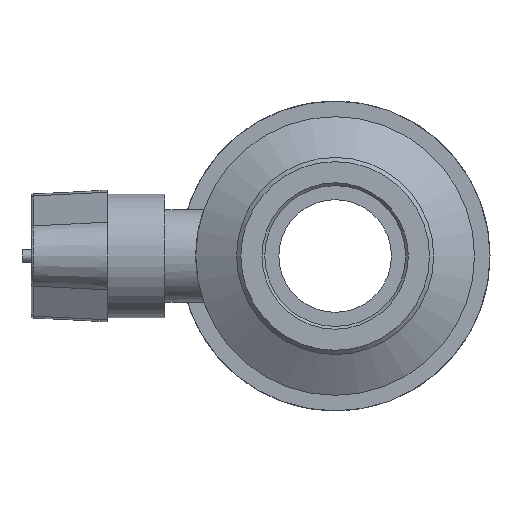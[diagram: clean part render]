
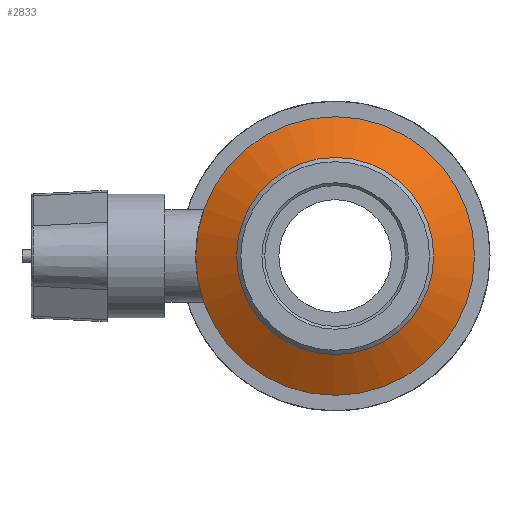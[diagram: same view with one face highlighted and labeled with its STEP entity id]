
A CAD part, left-side view. The second image highlights one B-rep face of the part: STEP entity #2833.
In plain terms, the highlighted conical face has half-angle 60 degrees and reference radius 21.125 mm.
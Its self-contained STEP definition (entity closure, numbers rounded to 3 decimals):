
#32=FACE_BOUND('',#494,.T.);
#149=CONICAL_SURFACE('',#3182,21.125,60.);
#310=FACE_OUTER_BOUND('',#493,.T.);
#493=EDGE_LOOP('',(#2605));
#494=EDGE_LOOP('',(#2606));
#686=CIRCLE('',#3181,17.5);
#687=CIRCLE('',#3183,24.75);
#1359=VERTEX_POINT('',#5590);
#1360=VERTEX_POINT('',#5593);
#1777=EDGE_CURVE('',#1359,#1359,#686,.T.);
#1778=EDGE_CURVE('',#1360,#1360,#687,.T.);
#2605=ORIENTED_EDGE('',*,*,#1778,.F.);
#2606=ORIENTED_EDGE('',*,*,#1777,.T.);
#2833=ADVANCED_FACE('',(#310,#32),#149,.T.);
#3181=AXIS2_PLACEMENT_3D('',#5591,#4038,#4039);
#3182=AXIS2_PLACEMENT_3D('',#5592,#4040,#4041);
#3183=AXIS2_PLACEMENT_3D('',#5594,#4042,#4043);
#4038=DIRECTION('center_axis',(1.,0.,0.));
#4039=DIRECTION('ref_axis',(0.,0.,-1.));
#4040=DIRECTION('center_axis',(1.,0.,0.));
#4041=DIRECTION('ref_axis',(0.,1.,0.));
#4042=DIRECTION('center_axis',(1.,0.,0.));
#4043=DIRECTION('ref_axis',(0.,0.,-1.));
#5590=CARTESIAN_POINT('',(-15.386,17.5,0.));
#5591=CARTESIAN_POINT('Origin',(-15.386,0.,0.));
#5592=CARTESIAN_POINT('Origin',(-13.293,0.,0.));
#5593=CARTESIAN_POINT('',(-11.2,24.75,0.));
#5594=CARTESIAN_POINT('Origin',(-11.2,0.,0.));
